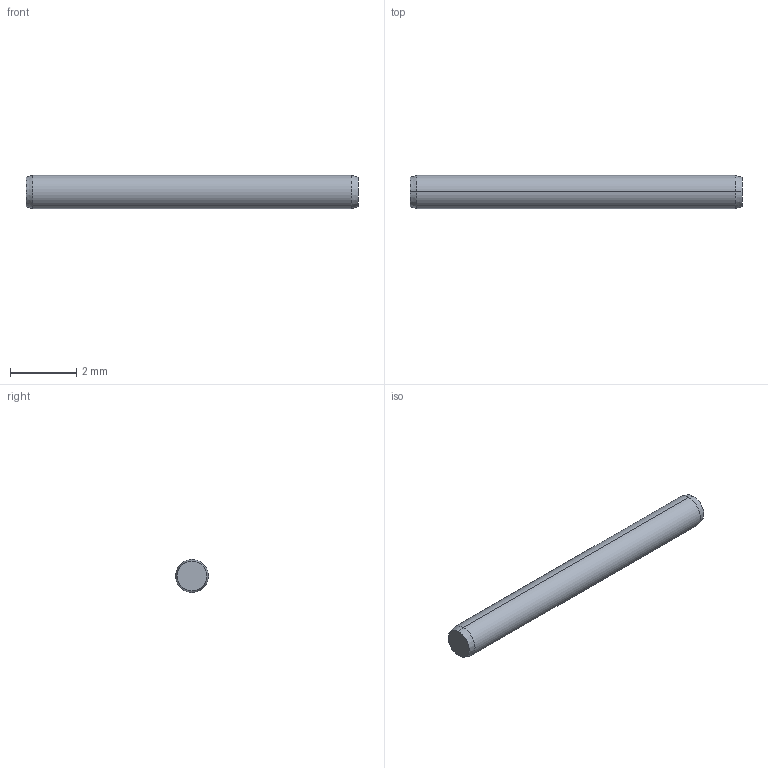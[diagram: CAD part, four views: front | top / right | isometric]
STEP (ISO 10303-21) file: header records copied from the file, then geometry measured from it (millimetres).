
FILE_DESCRIPTION (( 'STEP AP203' ), '1' );
FILE_NAME ('P1206.010-010.step', '2017-06-14T07:51:11', ( 'User' ), ( '' ), 'SwSTEP 2.0', 'SolidWorks 2009', '' );
FILE_SCHEMA (( 'CONFIG_CONTROL_DESIGN' ));
Length unit declared in the file: millimetre
Products named in the file (1): P1206.010-010
Bounding box: 10 x 1 x 1 mm (x, y, z)
Volume: 7.8 mm3; surface area: 32.6 mm2
Topology: 1 solids, 1 shells, 8 faces, 14 edges, 8 vertices
Faces by surface type: cone 4, cylinder 2, plane 2
Entity records: 271 total; most frequent: DIRECTION 40, CARTESIAN_POINT 31, ORIENTED_EDGE 28, AXIS2_PLACEMENT_3D 17, EDGE_CURVE 14, PERSON_AND_ORGANIZATION 8, FACE_OUTER_BOUND 8, CIRCLE 8
